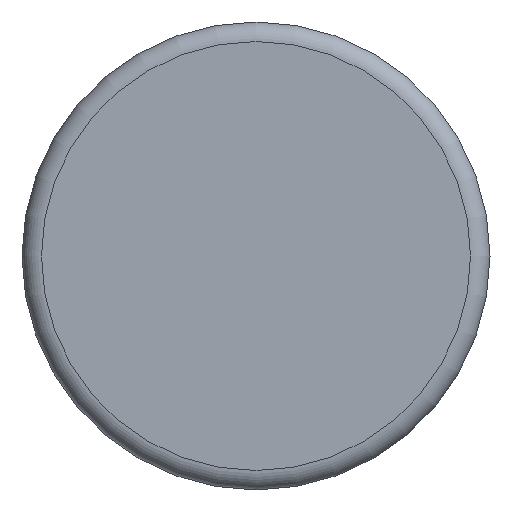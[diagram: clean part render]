
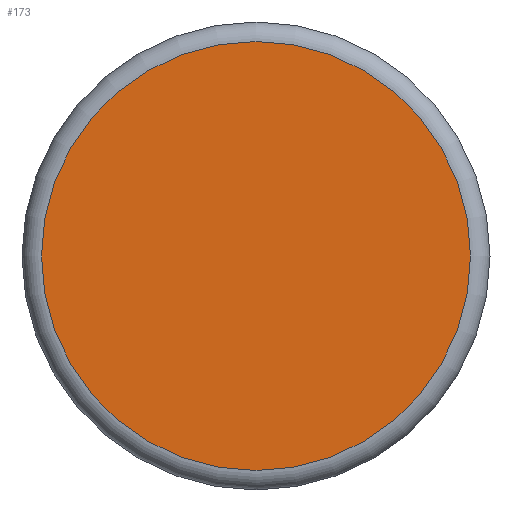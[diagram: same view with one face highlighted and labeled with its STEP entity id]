
A CAD part, left-side view. The second image highlights one B-rep face of the part: STEP entity #173.
In plain terms, the highlighted planar face has unit normal (-1, 0, 0).
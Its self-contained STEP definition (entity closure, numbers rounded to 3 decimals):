
#6 = VERTEX_POINT ( 'NONE', #211 ) ;
#62 = PLANE ( 'NONE',  #150 ) ;
#106 = CARTESIAN_POINT ( 'NONE',  ( -182., 0., 0. ) ) ;
#110 = FACE_OUTER_BOUND ( 'NONE', #126, .T. ) ;
#126 = EDGE_LOOP ( 'NONE', ( #342 ) ) ;
#146 = CIRCLE ( 'NONE', #289, 33. ) ;
#150 = AXIS2_PLACEMENT_3D ( 'NONE', #106, #340, #199 ) ;
#173 = ADVANCED_FACE ( 'NONE', ( #110 ), #62, .F. ) ;
#199 = DIRECTION ( 'NONE',  ( 0., 0., -1. ) ) ;
#211 = CARTESIAN_POINT ( 'NONE',  ( -182., 0., -33. ) ) ;
#216 = CARTESIAN_POINT ( 'NONE',  ( -182., 0., 0. ) ) ;
#218 = EDGE_CURVE ( 'NONE', #6, #6, #146, .T. ) ;
#245 = DIRECTION ( 'NONE',  ( -1., 0., 0. ) ) ;
#289 = AXIS2_PLACEMENT_3D ( 'NONE', #216, #245, #322 ) ;
#322 = DIRECTION ( 'NONE',  ( 0., 0., -1. ) ) ;
#340 = DIRECTION ( 'NONE',  ( 1., 0., 0. ) ) ;
#342 = ORIENTED_EDGE ( 'NONE', *, *, #218, .T. ) ;
